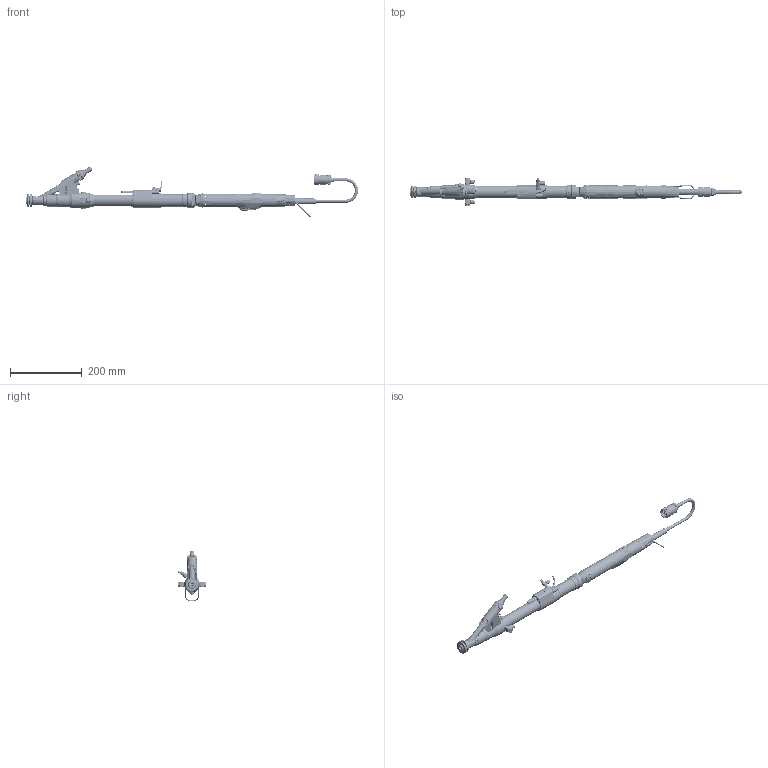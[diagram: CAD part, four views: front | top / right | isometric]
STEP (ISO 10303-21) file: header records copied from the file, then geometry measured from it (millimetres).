
FILE_DESCRIPTION(/* description */ (''),/* implementation_level */ '2;1');
FILE_NAME(/* name */ 'G:\Modelle für Marketing\3Ds Parasolid\3D_Parasolid_handheld_screwdriver_with_vacuum_unit_HSV_series.x_b.ipt.stp',/* time_stamp */ '2016-07-28T11:55:51+02:00',/* author */ ('Wolf'),/* organization */ (''),/* preprocessor_version */ 'ST-DEVELOPER v15.2',/* originating_system */ 'Autodesk Inventor 2014',/* authorisation */ '');
FILE_SCHEMA (('AUTOMOTIVE_DESIGN { 1 0 10303 214 3 1 1 }'));
Length unit declared in the file: millimetre
Products named in the file (1): 3D_Parasolid_handheld_screwdriver_with_vacuum_unit_HSV_series.x_b
Bounding box: 927.68 x 81 x 142.46 mm (x, y, z)
Volume: 483858.9 mm3; surface area: 358282.5 mm2
Topology: 25 solids, 87 shells, 9774 faces, 26475 edges, 17097 vertices
Faces by surface type: plane 4709, cylinder 2001, bspline 1849, cone 793, torus 319, sphere 103
Full cylindrical faces by diameter (mm): 0.442 x1, 0.6 x8, 0.74 x8, 0.8 x11, 1 x5, 1.02 x16, 1.1 x4, 1.16 x2, 1.17 x8, 1.23 x8, 1.3 x6, 1.5 x8, 1.6 x11, 1.69 x4, 1.8 x4, 1.97 x16, 2 x8, 2.04 x8, 2.06 x4, 2.19 x3, 2.3 x3, 2.4 x4, 2.459 x3, 2.5 x22, 2.51 x2, 2.56 x20, 2.58 x8, 2.6 x8, 2.69 x8, 2.8 x3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
Entity records: 379150 total; most frequent: CARTESIAN_POINT 142296, ORIENTED_EDGE 48655, DIRECTION 44877, EDGE_CURVE 24360, AXIS2_PLACEMENT_3D 17480, VERTEX_POINT 16459, EDGE_LOOP 12146, LINE 9917
